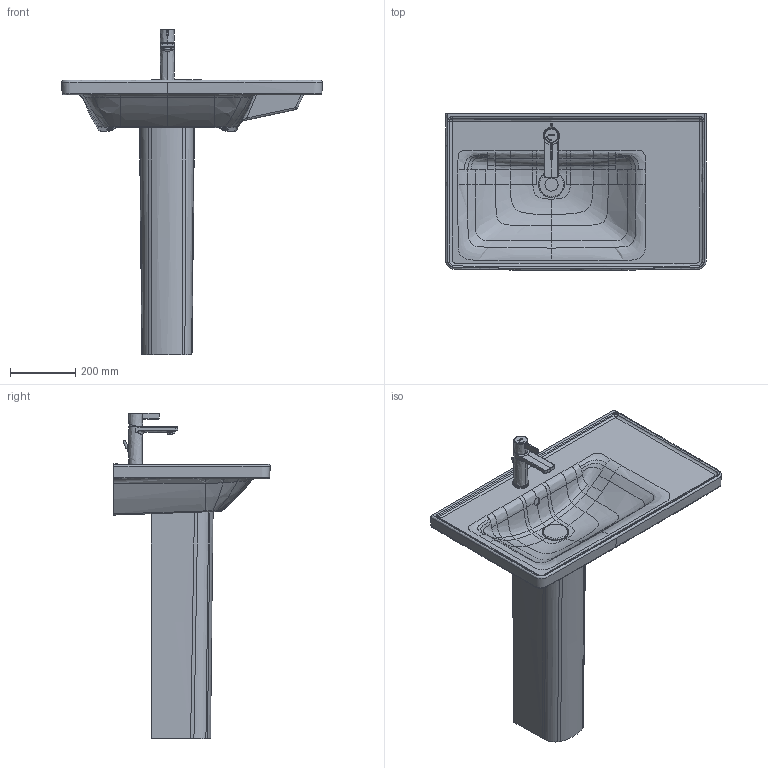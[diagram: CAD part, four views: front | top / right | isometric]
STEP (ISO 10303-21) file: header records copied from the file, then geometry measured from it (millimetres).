
FILE_DESCRIPTION(/* description */ (''),/* implementation_level */ '2;1');
FILE_NAME(/* name */ '236980_085842',/* time_stamp */ '2021-06-21T12:04:11+02:00',/* author */ (''),/* organization */ (''),/* preprocessor_version */ 'ST-DEVELOPER v15',/* originating_system */ '',/* authorisation */ '');
FILE_SCHEMA (('AUTOMOTIVE_DESIGN'));
Length unit declared in the file: millimetre
Products named in the file (1): Document
Bounding box: 800.17 x 480.01 x 999.28 mm (x, y, z)
Volume: 8772142.7 mm3; surface area: 2003962.8 mm2
Topology: 4 solids, 10 shells, 660 faces, 1637 edges, 1005 vertices
Faces by surface type: bspline 503, plane 157
Entity records: 92742 total; most frequent: CARTESIAN_POINT 82635, ORIENTED_EDGE 3230, EDGE_CURVE 1627, B_SPLINE_CURVE_WITH_KNOTS 1308, VERTEX_POINT 1005, EDGE_LOOP 700, ADVANCED_FACE 660, FACE_OUTER_BOUND 660
